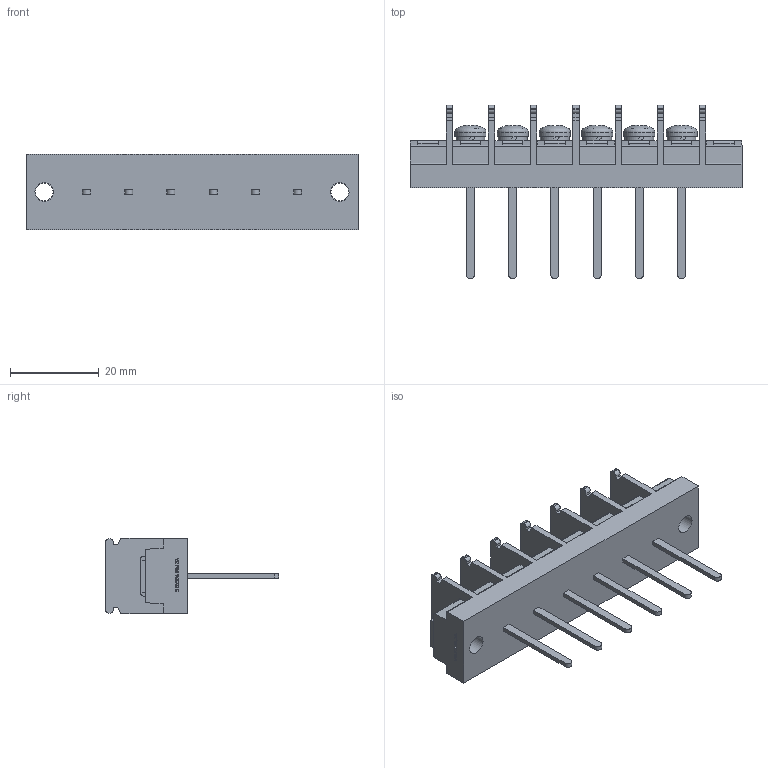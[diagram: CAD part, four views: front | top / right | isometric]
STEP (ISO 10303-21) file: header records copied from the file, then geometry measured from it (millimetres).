
FILE_DESCRIPTION(/* description */ ('Alibre Inc.'),/* implementation_level */ '2;1');
FILE_NAME(/* name */ 'export-9A396870-35D9-4670-B6BE-F4B02B543B96',/* time_stamp */ '2021-02-02T11:22:04+09:00',/* author */ (''),/* organization */ (''),/* preprocessor_version */ 'ST-DEVELOPER v17',/* originating_system */ 'Alibre',/* authorisation */ '');
FILE_SCHEMA (('CONFIG_CONTROL_DESIGN'));
Length unit declared in the file: millimetre
Bounding box: 74.7 x 39 x 17 mm (x, y, z)
Volume: 13200.8 mm3; surface area: 9018.7 mm2
Topology: 1 solids, 7 shells, 926 faces, 2534 edges, 1684 vertices
Faces by surface type: plane 664, cylinder 110, bspline 104, cone 30, torus 12, sphere 6
Full cylindrical faces by diameter (mm): 4 x14, 4.2 x2, 6.5 x6, 7 x6
Entity records: 28223 total; most frequent: CARTESIAN_POINT 6136, ORIENTED_EDGE 4936, DIRECTION 3566, EDGE_CURVE 2468, VECTOR 1770, LINE 1770, VERTEX_POINT 1658, AXIS2_PLACEMENT_3D 1220
